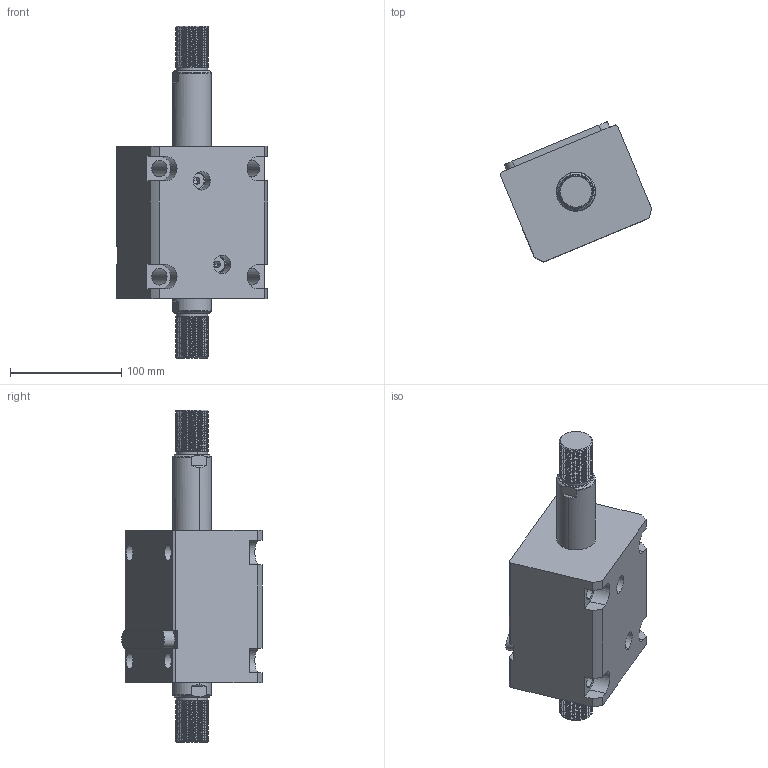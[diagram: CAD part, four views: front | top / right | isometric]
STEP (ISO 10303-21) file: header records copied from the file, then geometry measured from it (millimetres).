
FILE_DESCRIPTION (( 'STEP AP214' ), '1' );
FILE_NAME ('chtb-lw63x55w_asm.STEP', '2018-05-18T08:41:09', ( 'Windows' ), ( 'Microsoft' ), 'SwSTEP 2.0', 'SolidWorks 2015', '' );
FILE_SCHEMA (( 'AUTOMOTIVE_DESIGN' ));
Length unit declared in the file: millimetre
Products named in the file (5): chtb-lw63x55w_asm; CHTB-SW63X55WHSG; CHTB-LW63X55NBT; CHTB-LA63PJ; CHTB-63QG
Assembly tree (4 placements, depth 2):
  chtb-lw63x55w_asm
    CHTB-63QG
    CHTB-LA63PJ
    CHTB-LW63X55NBT
    CHTB-SW63X55WHSG
Bounding box: 135.77 x 126.06 x 298 mm (x, y, z)
Volume: 1321450.2 mm3; surface area: 184953.6 mm2
Topology: 4 solids, 4 shells, 306 faces, 889 edges, 601 vertices
Faces by surface type: cylinder 204, plane 58, bspline 16, cone 16, torus 12
Entity records: 27878 total; most frequent: CARTESIAN_POINT 20531, ORIENTED_EDGE 1770, DIRECTION 1228, EDGE_CURVE 885, VERTEX_POINT 601, AXIS2_PLACEMENT_3D 458, EDGE_LOOP 336, VECTOR 312
